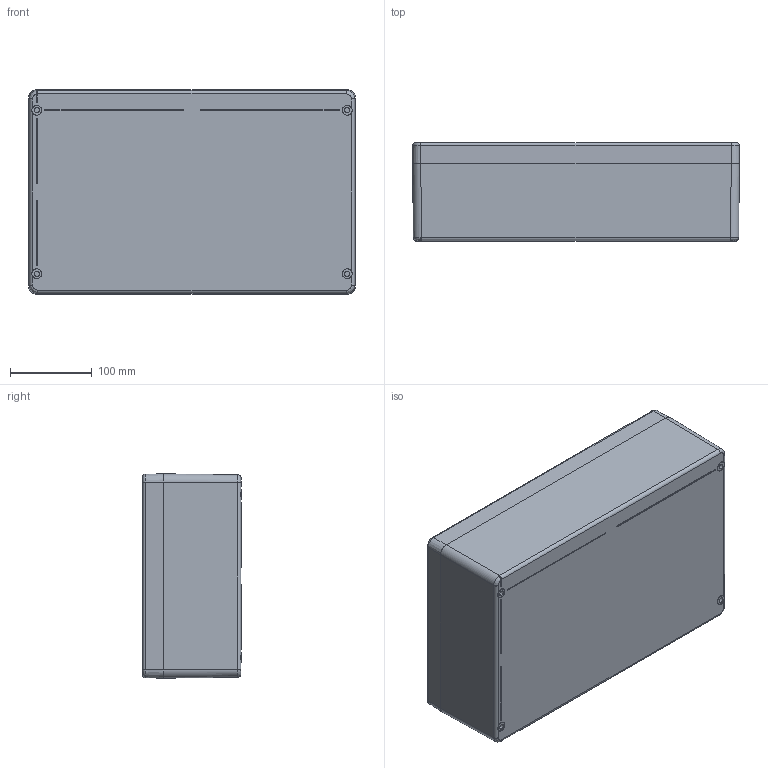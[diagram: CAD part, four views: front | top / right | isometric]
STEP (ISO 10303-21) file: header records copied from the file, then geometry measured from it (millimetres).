
FILE_DESCRIPTION((''),'2;1');
FILE_NAME('4404000000_ASM','2024-01-03T11:46:20',('silke.otte'),(''),'CREO PARAMETRIC BY PTC INC, 2022124','CREO PARAMETRIC BY PTC INC, 2022124','');
FILE_SCHEMA(('AUTOMOTIVE_DESIGN { 1 0 10303 214 1 1 1 1 }'));
Length unit declared in the file: millimetre
Products named in the file (12): 9331011000; 9502218000; 9502217000; 9331011000_ASM; 9332011000; CP-DICHTUNG_45; 9614004200_ASM; 9262006000; 9261027000; 9258857000; 9258838000; 4404000000_ASM
Assembly tree (26 placements, depth 3):
  4404000000_ASM
    9331011000_ASM
      9331011000
      9502218000  x6
      9502217000  x4
    9614004200_ASM
      9332011000
      CP-DICHTUNG_45
    9262006000  x4
    9261027000  x4
    9258857000  x2
    9258838000
Bounding box: 400 x 120.6 x 250 mm (x, y, z)
Volume: 2089274.3 mm3; surface area: 735529.4 mm2
Topology: 24 solids, 38 shells, 2257 faces, 9793 edges, 11306 vertices
Faces by surface type: plane 1618, cone 412, cylinder 170, bspline 33, torus 24
Entity records: 53598 total; most frequent: CARTESIAN_POINT 12326, DIRECTION 6455, ORIENTED_EDGE 3928, VECTOR 3186, LINE 3186, PRESENTATION_STYLE_ASSIGNMENT 2348, STYLED_ITEM 2327, CURVE_STYLE 2316
